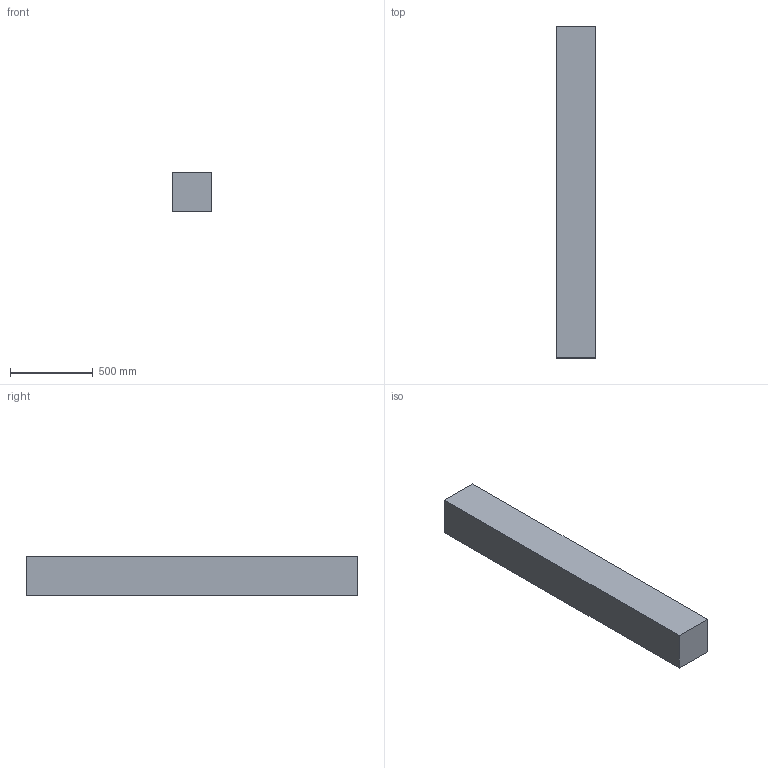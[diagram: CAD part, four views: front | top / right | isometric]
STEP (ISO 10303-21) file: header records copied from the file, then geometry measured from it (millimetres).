
FILE_DESCRIPTION (( 'STEP AP203' ), '1' );
FILE_NAME ('Pilier.STEP', '2025-09-18T12:07:42', ( '' ), ( '' ), 'SwSTEP 2.0', 'SolidWorks 2019', '' );
FILE_SCHEMA (( 'CONFIG_CONTROL_DESIGN' ));
Length unit declared in the file: millimetre
Products named in the file (1): Pilier
Bounding box: 240 x 2000 x 240 mm (x, y, z)
Volume: 115200000 mm3; surface area: 2035200 mm2
Topology: 1 solids, 1 shells, 6 faces, 12 edges, 8 vertices
Faces by surface type: plane 6
Entity records: 233 total; most frequent: CARTESIAN_POINT 27, DIRECTION 26, ORIENTED_EDGE 24, LINE 12, VECTOR 12, EDGE_CURVE 12, PERSON_AND_ORGANIZATION 8, VERTEX_POINT 8
